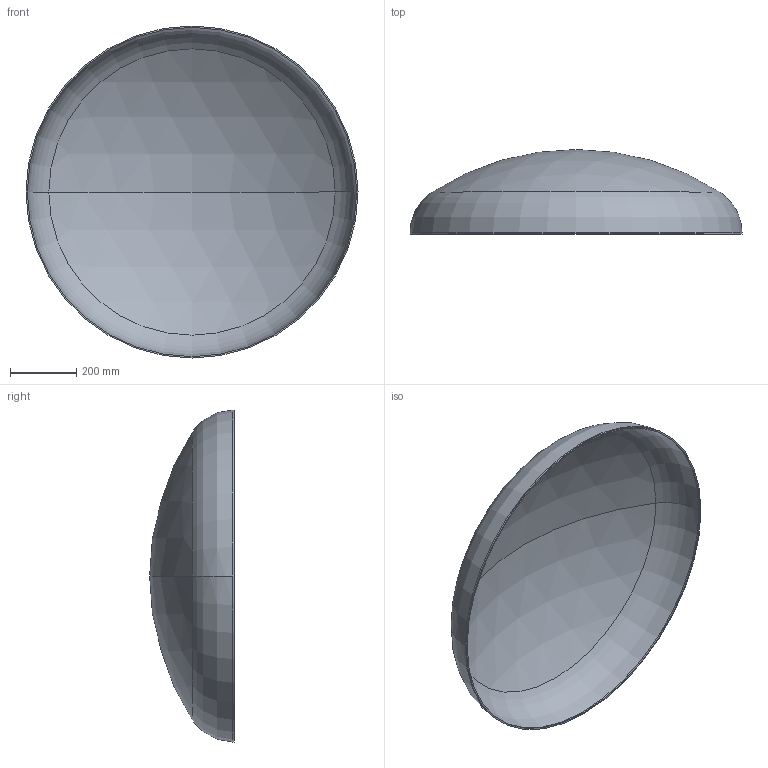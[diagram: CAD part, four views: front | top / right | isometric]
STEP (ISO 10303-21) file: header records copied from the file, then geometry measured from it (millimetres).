
FILE_DESCRIPTION (( 'STEP AP203' ), '1' );
FILE_NAME ('3D_R365_1000x4_173374720.STEP', '2024-07-16T07:36:42', ( '' ), ( '' ), 'SwSTEP 2.0', 'SolidWorks 2024', '' );
FILE_SCHEMA (( 'CONFIG_CONTROL_DESIGN' ));
Length unit declared in the file: millimetre
Products named in the file (1): 3D_R365_1000x4_173374720
Bounding box: 1000 x 255 x 1000 mm (x, y, z)
Volume: 4319547.6 mm3; surface area: 2172322.5 mm2
Topology: 1 solids, 1 shells, 13 faces, 24 edges, 14 vertices
Faces by surface type: sphere 4, torus 4, cylinder 4, plane 1
Entity records: 407 total; most frequent: DIRECTION 72, CARTESIAN_POINT 52, ORIENTED_EDGE 48, AXIS2_PLACEMENT_3D 34, EDGE_CURVE 24, CIRCLE 20, VERTEX_POINT 14, EDGE_LOOP 14
